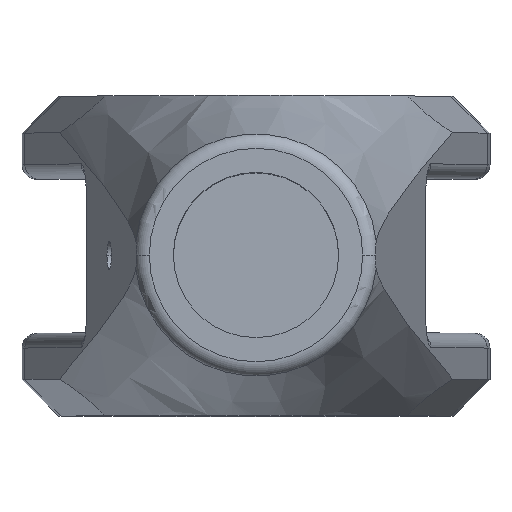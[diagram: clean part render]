
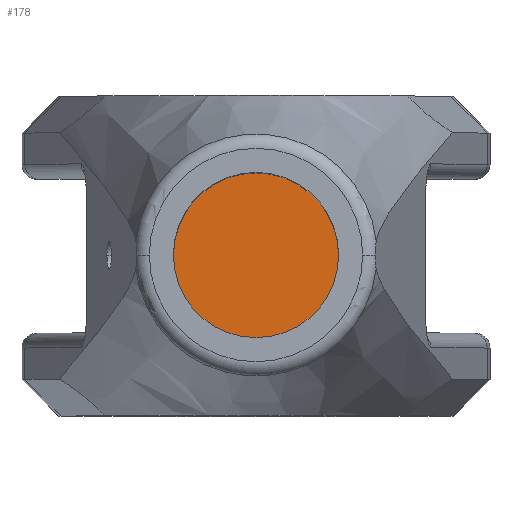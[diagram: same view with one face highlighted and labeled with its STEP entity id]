
A CAD part, top view. The second image highlights one B-rep face of the part: STEP entity #178.
In plain terms, the highlighted planar face has unit normal (0, 0, 1).
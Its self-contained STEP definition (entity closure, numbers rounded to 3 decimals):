
#178 = ADVANCED_FACE ( 'NONE', ( #509 ), #2000, .T. ) ;
#498 = CARTESIAN_POINT ( 'NONE',  ( 109.5, 0., -180. ) ) ;
#501 = EDGE_CURVE ( 'NONE', #860, #1366, #1336, .T. ) ;
#509 = FACE_OUTER_BOUND ( 'NONE', #646, .T. ) ;
#582 = CARTESIAN_POINT ( 'NONE',  ( 19.5, 0., -180. ) ) ;
#590 = ORIENTED_EDGE ( 'NONE', *, *, #501, .T. ) ;
#646 = EDGE_LOOP ( 'NONE', ( #590, #967 ) ) ;
#719 = AXIS2_PLACEMENT_3D ( 'NONE', #1369, #1388, #1396 ) ;
#763 = AXIS2_PLACEMENT_3D ( 'NONE', #1861, #2026, #2031 ) ;
#860 = VERTEX_POINT ( 'NONE', #498 ) ;
#893 = AXIS2_PLACEMENT_3D ( 'NONE', #1705, #1717, #1977 ) ;
#967 = ORIENTED_EDGE ( 'NONE', *, *, #1938, .T. ) ;
#1336 = CIRCLE ( 'NONE', #719, 45. ) ;
#1366 = VERTEX_POINT ( 'NONE', #582 ) ;
#1369 = CARTESIAN_POINT ( 'NONE',  ( 64.5, 0., -180. ) ) ;
#1388 = DIRECTION ( 'NONE',  ( 0., 0., 1. ) ) ;
#1396 = DIRECTION ( 'NONE',  ( 1., 0., 0. ) ) ;
#1705 = CARTESIAN_POINT ( 'NONE',  ( 64.5, 0., -180. ) ) ;
#1717 = DIRECTION ( 'NONE',  ( 0., 0., 1. ) ) ;
#1861 = CARTESIAN_POINT ( 'NONE',  ( 64.5, 0., -180. ) ) ;
#1938 = EDGE_CURVE ( 'NONE', #1366, #860, #1990, .T. ) ;
#1977 = DIRECTION ( 'NONE',  ( 1., 0., 0. ) ) ;
#1990 = CIRCLE ( 'NONE', #893, 45. ) ;
#2000 = PLANE ( 'NONE',  #763 ) ;
#2026 = DIRECTION ( 'NONE',  ( 0., 0., 1. ) ) ;
#2031 = DIRECTION ( 'NONE',  ( 1., 0., 0. ) ) ;
